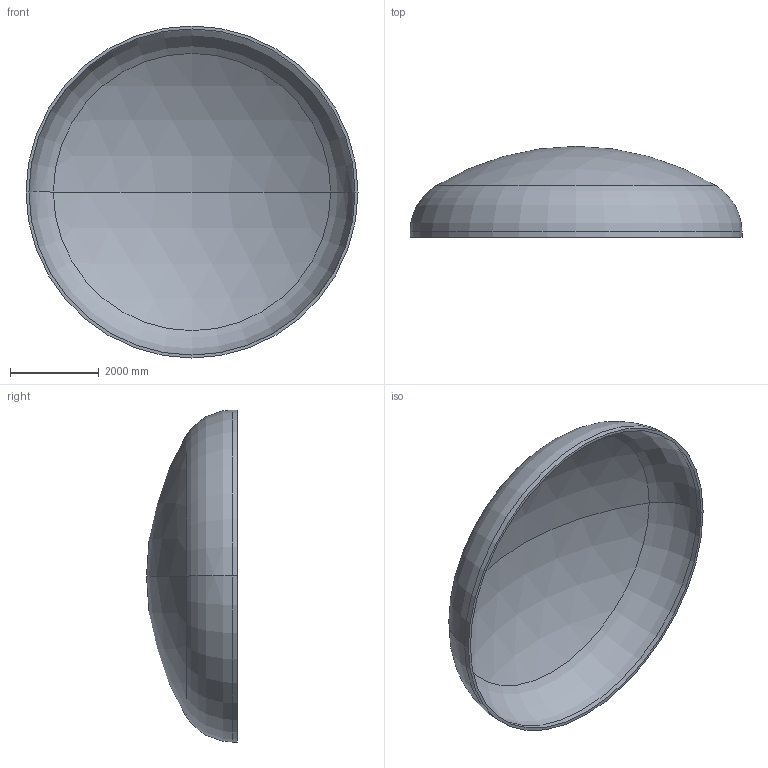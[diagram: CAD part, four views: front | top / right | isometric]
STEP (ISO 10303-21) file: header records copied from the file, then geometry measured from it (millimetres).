
FILE_DESCRIPTION (( 'STEP AP203' ), '1' );
FILE_NAME ('DIN 28013 Korbbogenform_-_Boden DIN 28013 - 7500 x 120 - I - s=66.step', '2016-07-04T10:55:23', ( '' ), ( '' ), 'SwSTEP 2.0', 'SolidWorks 2013', '' );
FILE_SCHEMA (( 'CONFIG_CONTROL_DESIGN' ));
Length unit declared in the file: millimetre
Products named in the file (1): DIN 28013 Korbbogenform_-_Boden DIN 28013 - 7500 x 120 - I - s=66
Bounding box: 7500 x 2053.42 x 7500 mm (x, y, z)
Volume: 4176584290.3 mm3; surface area: 128113638 mm2
Topology: 1 solids, 1 shells, 13 faces, 24 edges, 14 vertices
Faces by surface type: torus 4, cylinder 4, sphere 4, plane 1
Entity records: 407 total; most frequent: DIRECTION 72, CARTESIAN_POINT 52, ORIENTED_EDGE 48, AXIS2_PLACEMENT_3D 34, EDGE_CURVE 24, CIRCLE 20, VERTEX_POINT 14, EDGE_LOOP 14
